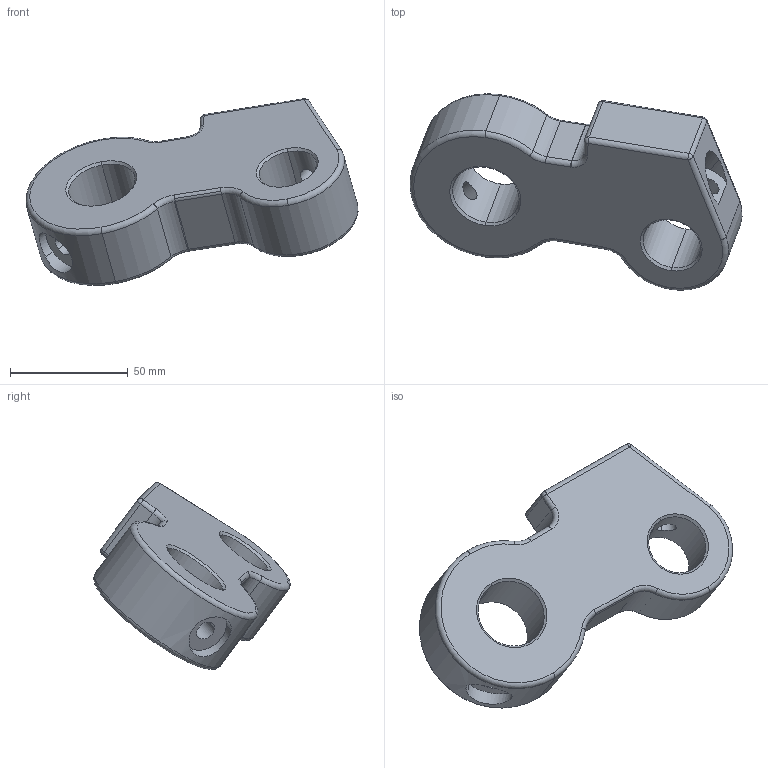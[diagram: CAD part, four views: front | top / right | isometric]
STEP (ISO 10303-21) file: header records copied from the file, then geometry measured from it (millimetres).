
FILE_DESCRIPTION (( 'STEP AP203' ), '1' );
FILE_NAME ('YYDK-500-0028 下曲柄（500T）.STEP', '2026-03-14T08:02:27', ( 'Windows 用户' ), ( '' ), 'SwSTEP 2.0', 'SolidWorks 2020', '' );
FILE_SCHEMA (( 'CONFIG_CONTROL_DESIGN' ));
Length unit declared in the file: millimetre
Products named in the file (1): YYDK-500-0028 下曲柄（500T）
Bounding box: 141.05 x 83.45 x 79.35 mm (x, y, z)
Volume: 192482.5 mm3; surface area: 30088.1 mm2
Topology: 1 solids, 1 shells, 78 faces, 178 edges, 104 vertices
Faces by surface type: cylinder 37, torus 20, plane 9, cone 8, sphere 4
Entity records: 2523 total; most frequent: CARTESIAN_POINT 619, DIRECTION 432, ORIENTED_EDGE 356, AXIS2_PLACEMENT_3D 186, EDGE_CURVE 178, CIRCLE 107, VERTEX_POINT 104, EDGE_LOOP 88
